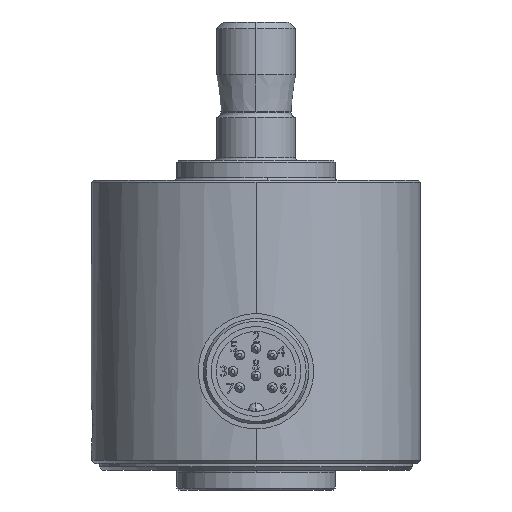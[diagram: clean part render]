
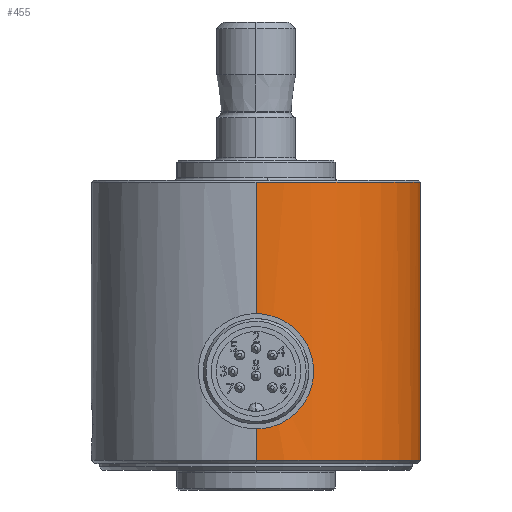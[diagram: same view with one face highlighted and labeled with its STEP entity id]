
A CAD part, left-side view. The second image highlights one B-rep face of the part: STEP entity #455.
In plain terms, the highlighted cylindrical face has radius 25 mm (diameter 50 mm), a partial arc.
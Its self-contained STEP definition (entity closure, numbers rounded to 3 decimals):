
#455=ADVANCED_FACE('',(#1117),#1118,.T.);
#1117=FACE_OUTER_BOUND('',#2525,.T.);
#1118=CYLINDRICAL_SURFACE('',#2526,25.0);
#2525=EDGE_LOOP('',(#4794,#4795,#4796,#4797,#4798,#4799,#4800,#4801,#4802));
#2526=AXIS2_PLACEMENT_3D('',#4803,#4804,#4805);
#4794=ORIENTED_EDGE('',*,*,#6040,.T.);
#4795=ORIENTED_EDGE('',*,*,#6070,.F.);
#4796=ORIENTED_EDGE('',*,*,#5986,.F.);
#4797=ORIENTED_EDGE('',*,*,#6043,.T.);
#4798=ORIENTED_EDGE('',*,*,#6071,.T.);
#4799=ORIENTED_EDGE('',*,*,#6072,.T.);
#4800=ORIENTED_EDGE('',*,*,#5959,.T.);
#4801=ORIENTED_EDGE('',*,*,#6041,.T.);
#4802=ORIENTED_EDGE('',*,*,#6073,.F.);
#4803=CARTESIAN_POINT('',(0.,0.,-1.0));
#4804=DIRECTION('',(0.0,0.,1.0));
#4805=DIRECTION('',(1.0,0.0,0.0));
#5959=EDGE_CURVE('',#7393,#7391,#7394,.T.);
#5986=EDGE_CURVE('',#7441,#7435,#7443,.T.);
#6040=EDGE_CURVE('',#7526,#7543,#7544,.T.);
#6041=EDGE_CURVE('',#7391,#7530,#7545,.T.);
#6043=EDGE_CURVE('',#7441,#7546,#7548,.T.);
#6070=EDGE_CURVE('',#7435,#7543,#7585,.T.);
#6071=EDGE_CURVE('',#7546,#7586,#7587,.T.);
#6072=EDGE_CURVE('',#7586,#7393,#7588,.T.);
#6073=EDGE_CURVE('',#7526,#7530,#7589,.T.);
#7391=VERTEX_POINT('',#11285);
#7393=VERTEX_POINT('',#11304);
#7394=B_SPLINE_CURVE_WITH_KNOTS('',3,(#11305,#11306,#11307,#11308),.UNSPECIFIED.,.F.,.F.,(4,4),(0.287,0.301),.UNSPECIFIED.);
#7435=VERTEX_POINT('',#11373);
#7441=VERTEX_POINT('',#11381);
#7443=CIRCLE('',#11383,25.0);
#7526=VERTEX_POINT('',#11535);
#7530=VERTEX_POINT('',#11540);
#7543=VERTEX_POINT('',#11624);
#7544=LINE('',#11625,#11626);
#7545=LINE('',#11627,#11628);
#7546=VERTEX_POINT('',#11629);
#7548=LINE('',#11634,#11635);
#7585=CIRCLE('',#11697,25.0);
#7586=VERTEX_POINT('',#11698);
#7587=B_SPLINE_CURVE_WITH_KNOTS('',3,(#11699,#11700,#11701,#11702,#11703,#11704,#11705,#11706,#11707,#11708),.UNSPECIFIED.,.F.,.F.,(4,2,2,2,4),(0.904,0.98,1.055,1.131,1.206),.UNSPECIFIED.);
#7588=B_SPLINE_CURVE_WITH_KNOTS('',3,(#11709,#11710,#11711,#11712,#11713,#11714,#11715,#11716,#11717,#11718),.UNSPECIFIED.,.F.,.F.,(4,2,2,2,4),(0.0,0.075,0.151,0.226,0.287),.UNSPECIFIED.);
#7589=CIRCLE('',#11719,25.0);
#11285=CARTESIAN_POINT('',(-25.0,0.,11.0));
#11304=CARTESIAN_POINT('',(-25.,-0.143,11.005));
#11305=CARTESIAN_POINT('',(-25.,-0.143,11.005));
#11306=CARTESIAN_POINT('',(-25.,-0.095,11.002));
#11307=CARTESIAN_POINT('',(-25.0,-0.047,11.0));
#11308=CARTESIAN_POINT('',(-25.0,0.,11.0));
#11373=CARTESIAN_POINT('',(3.549,-24.747,41.7));
#11381=CARTESIAN_POINT('',(-25.0,0.,41.7));
#11383=AXIS2_PLACEMENT_3D('',#14525,#14526,#14527);
#11535=CARTESIAN_POINT('',(25.0,0.,-0.5));
#11540=CARTESIAN_POINT('',(-25.0,0.,-0.5));
#11624=CARTESIAN_POINT('',(25.0,0.,41.7));
#11625=CARTESIAN_POINT('',(25.0,0.,20.6));
#11626=VECTOR('',#14625,1.0);
#11627=CARTESIAN_POINT('',(-25.0,0.,20.6));
#11628=VECTOR('',#14626,1.0);
#11629=CARTESIAN_POINT('',(-25.0,0.,15.0));
#11634=CARTESIAN_POINT('',(-25.0,0.,20.6));
#11635=VECTOR('',#14627,1.0);
#11697=AXIS2_PLACEMENT_3D('',#14687,#14688,#14689);
#11698=CARTESIAN_POINT('',(-24.92,-2.,13.0));
#11699=CARTESIAN_POINT('',(-25.0,0.,15.0));
#11700=CARTESIAN_POINT('',(-25.0,-0.251,15.0));
#11701=CARTESIAN_POINT('',(-24.996,-0.519,14.95));
#11702=CARTESIAN_POINT('',(-24.981,-1.012,14.746));
#11703=CARTESIAN_POINT('',(-24.97,-1.237,14.592));
#11704=CARTESIAN_POINT('',(-24.95,-1.592,14.237));
#11705=CARTESIAN_POINT('',(-24.939,-1.746,14.012));
#11706=CARTESIAN_POINT('',(-24.924,-1.95,13.519));
#11707=CARTESIAN_POINT('',(-24.92,-2.,13.251));
#11708=CARTESIAN_POINT('',(-24.92,-2.,13.0));
#11709=CARTESIAN_POINT('',(-24.92,-2.,13.0));
#11710=CARTESIAN_POINT('',(-24.92,-2.,12.749));
#11711=CARTESIAN_POINT('',(-24.924,-1.95,12.481));
#11712=CARTESIAN_POINT('',(-24.939,-1.746,11.988));
#11713=CARTESIAN_POINT('',(-24.95,-1.592,11.763));
#11714=CARTESIAN_POINT('',(-24.97,-1.237,11.408));
#11715=CARTESIAN_POINT('',(-24.981,-1.012,11.254));
#11716=CARTESIAN_POINT('',(-24.994,-0.565,11.069));
#11717=CARTESIAN_POINT('',(-24.998,-0.351,11.02));
#11718=CARTESIAN_POINT('',(-25.,-0.143,11.005));
#11719=AXIS2_PLACEMENT_3D('',#14690,#14691,#14692);
#14525=CARTESIAN_POINT('',(0.,0.,41.7));
#14526=DIRECTION('',(0.,0.,1.0));
#14527=DIRECTION('',(0.142,-0.99,0.));
#14625=DIRECTION('',(0.0,0.,1.0));
#14626=DIRECTION('',(0.0,0.,-1.0));
#14627=DIRECTION('',(0.0,0.,-1.0));
#14687=CARTESIAN_POINT('',(0.,0.,41.7));
#14688=DIRECTION('',(0.,0.,1.0));
#14689=DIRECTION('',(0.142,-0.99,0.));
#14690=CARTESIAN_POINT('',(0.,0.,-0.5));
#14691=DIRECTION('',(0.0,0.0,-1.0));
#14692=DIRECTION('',(1.0,0.0,0.0));
